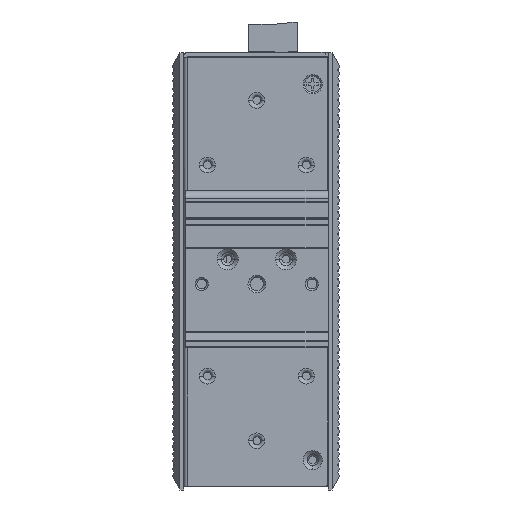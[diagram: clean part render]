
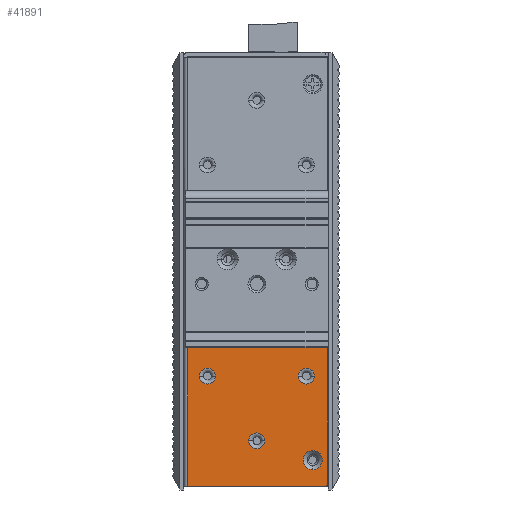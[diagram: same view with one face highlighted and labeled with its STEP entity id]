
A CAD part, left-side view. The second image highlights one B-rep face of the part: STEP entity #41891.
In plain terms, the highlighted planar face has unit normal (-1, 0, 0).
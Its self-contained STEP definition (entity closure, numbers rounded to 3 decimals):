
#7584=DIRECTION('',(0.,0.,1.));
#7585=VECTOR('',#7584,44.66);
#7586=CARTESIAN_POINT('',(-50.8,43.4,-66.4));
#7587=LINE('',#7586,#7585);
#8258=CARTESIAN_POINT('',(-50.8,4.8,-58.25));
#8259=DIRECTION('',(1.,0.,0.));
#8260=DIRECTION('',(0.,0.,-1.));
#8261=AXIS2_PLACEMENT_3D('',#8258,#8259,#8260);
#8263=CARTESIAN_POINT('',(-50.8,4.8,-58.25));
#8264=DIRECTION('',(1.,0.,0.));
#8265=DIRECTION('',(0.,0.,1.));
#8266=AXIS2_PLACEMENT_3D('',#8263,#8264,#8265);
#8268=DIRECTION('',(0.,1.,0.));
#8269=VECTOR('',#8268,43.3);
#8270=CARTESIAN_POINT('',(-50.8,0.1,-21.74));
#8271=LINE('',#8270,#8269);
#8272=DIRECTION('',(0.,0.,1.));
#8273=VECTOR('',#8272,43.66);
#8274=CARTESIAN_POINT('',(-50.8,0.1,-65.4));
#8275=LINE('',#8274,#8273);
#8276=CARTESIAN_POINT('',(-50.8,1.1,-65.4));
#8277=DIRECTION('',(-1.,0.,0.));
#8278=DIRECTION('',(0.,0.,-1.));
#8279=AXIS2_PLACEMENT_3D('',#8276,#8277,#8278);
#8281=DIRECTION('',(0.,-1.,0.));
#8282=VECTOR('',#8281,42.3);
#8283=CARTESIAN_POINT('',(-50.8,43.4,-66.4));
#8284=LINE('',#8283,#8282);
#9213=CARTESIAN_POINT('',(-50.8,6.8,-32.34));
#9214=DIRECTION('',(1.,0.,0.));
#9215=DIRECTION('',(0.,1.,0.));
#9216=AXIS2_PLACEMENT_3D('',#9213,#9214,#9215);
#9228=CARTESIAN_POINT('',(-50.8,6.8,-32.34));
#9229=DIRECTION('',(1.,0.,0.));
#9230=DIRECTION('',(0.,-1.,0.));
#9231=AXIS2_PLACEMENT_3D('',#9228,#9229,#9230);
#9279=CARTESIAN_POINT('',(-50.8,37.3,-32.34));
#9280=DIRECTION('',(1.,0.,0.));
#9281=DIRECTION('',(0.,1.,0.));
#9282=AXIS2_PLACEMENT_3D('',#9279,#9280,#9281);
#9294=CARTESIAN_POINT('',(-50.8,37.3,-32.34));
#9295=DIRECTION('',(1.,0.,0.));
#9296=DIRECTION('',(0.,-1.,0.));
#9297=AXIS2_PLACEMENT_3D('',#9294,#9295,#9296);
#9419=CARTESIAN_POINT('',(-50.8,22.05,-52.34));
#9420=DIRECTION('',(1.,0.,0.));
#9421=DIRECTION('',(0.,1.,0.));
#9422=AXIS2_PLACEMENT_3D('',#9419,#9420,#9421);
#9434=CARTESIAN_POINT('',(-50.8,22.05,-52.34));
#9435=DIRECTION('',(1.,0.,0.));
#9436=DIRECTION('',(0.,-1.,0.));
#9437=AXIS2_PLACEMENT_3D('',#9434,#9435,#9436);
#29496=CARTESIAN_POINT('',(-50.8,43.4,-66.4));
#29497=CARTESIAN_POINT('',(-50.8,1.1,-66.4));
#29498=VERTEX_POINT('',#29496);
#29499=VERTEX_POINT('',#29497);
#29508=CARTESIAN_POINT('',(-50.8,0.1,-65.4));
#29509=VERTEX_POINT('',#29508);
#29534=CARTESIAN_POINT('',(-50.8,4.8,
-55.3));
#29536=VERTEX_POINT('',#29534);
#29569=CARTESIAN_POINT('',(-50.8,4.8,-61.2));
#29571=VERTEX_POINT('',#29569);
#29748=CARTESIAN_POINT('',(-50.8,4.35,-32.34));
#29750=VERTEX_POINT('',#29748);
#29753=CARTESIAN_POINT('',(-50.8,9.25,-32.34));
#29755=VERTEX_POINT('',#29753);
#29784=CARTESIAN_POINT('',(-50.8,34.85,-32.34));
#29786=VERTEX_POINT('',#29784);
#29789=CARTESIAN_POINT('',(-50.8,39.75,-32.34));
#29791=VERTEX_POINT('',#29789);
#29800=CARTESIAN_POINT('',(-50.8,19.6,-52.34));
#29802=VERTEX_POINT('',#29800);
#29805=CARTESIAN_POINT('',(-50.8,24.5,-52.34));
#29807=VERTEX_POINT('',#29805);
#33855=CARTESIAN_POINT('',(-50.8,43.4,-21.74));
#33857=VERTEX_POINT('',#33855);
#33859=CARTESIAN_POINT('',(-50.8,0.1,-21.74));
#33860=VERTEX_POINT('',#33859);
#41853=CARTESIAN_POINT('',(-50.8,43.4,66.4));
#41854=DIRECTION('',(1.,0.,0.));
#41855=DIRECTION('',(0.,0.,1.));
#41856=AXIS2_PLACEMENT_3D('',#41853,#41854,#41855);
#41857=PLANE('',#41856);
#41858=ORIENTED_EDGE('',*,*,#41843,.F.);
#41860=ORIENTED_EDGE('',*,*,#41859,.F.);
#41862=ORIENTED_EDGE('',*,*,#41861,.F.);
#41863=ORIENTED_EDGE('',*,*,#41150,.F.);
#41864=ORIENTED_EDGE('',*,*,#41176,.T.);
#41865=EDGE_LOOP('',(#41858,#41860,#41862,#41863,#41864));
#41866=FACE_OUTER_BOUND('',#41865,.F.);
#41868=ORIENTED_EDGE('',*,*,#41867,.F.);
#41870=ORIENTED_EDGE('',*,*,#41869,.F.);
#41871=EDGE_LOOP('',(#41868,#41870));
#41872=FACE_BOUND('',#41871,.F.);
#41874=ORIENTED_EDGE('',*,*,#41873,.F.);
#41876=ORIENTED_EDGE('',*,*,#41875,.F.);
#41877=EDGE_LOOP('',(#41874,#41876));
#41878=FACE_BOUND('',#41877,.F.);
#41880=ORIENTED_EDGE('',*,*,#41879,.F.);
#41882=ORIENTED_EDGE('',*,*,#41881,.F.);
#41883=EDGE_LOOP('',(#41880,#41882));
#41884=FACE_BOUND('',#41883,.F.);
#41886=ORIENTED_EDGE('',*,*,#41885,.F.);
#41888=ORIENTED_EDGE('',*,*,#41887,.F.);
#41889=EDGE_LOOP('',(#41886,#41888));
#41890=FACE_BOUND('',#41889,.F.);
#8262=CIRCLE('',#8261,2.95);
#8267=CIRCLE('',#8266,2.95);
#8280=CIRCLE('',#8279,1.);
#9217=CIRCLE('',#9216,2.45);
#9232=CIRCLE('',#9231,2.45);
#9283=CIRCLE('',#9282,2.45);
#9298=CIRCLE('',#9297,2.45);
#9423=CIRCLE('',#9422,2.45);
#9438=CIRCLE('',#9437,2.45);
#41150=EDGE_CURVE('',#29498,#29499,#8284,.T.);
#41176=EDGE_CURVE('',#29498,#33857,#7587,.T.);
#41843=EDGE_CURVE('',#33860,#33857,#8271,.T.);
#41859=EDGE_CURVE('',#29509,#33860,#8275,.T.);
#41861=EDGE_CURVE('',#29499,#29509,#8280,.T.);
#41867=EDGE_CURVE('',#29750,#29755,#9232,.T.);
#41869=EDGE_CURVE('',#29755,#29750,#9217,.T.);
#41873=EDGE_CURVE('',#29786,#29791,#9298,.T.);
#41875=EDGE_CURVE('',#29791,#29786,#9283,.T.);
#41879=EDGE_CURVE('',#29571,#29536,#8262,.T.);
#41881=EDGE_CURVE('',#29536,#29571,#8267,.T.);
#41885=EDGE_CURVE('',#29802,#29807,#9438,.T.);
#41887=EDGE_CURVE('',#29807,#29802,#9423,.T.);
#41891=ADVANCED_FACE('',(#41866,#41872,#41878,#41884,#41890),#41857,.F.);
